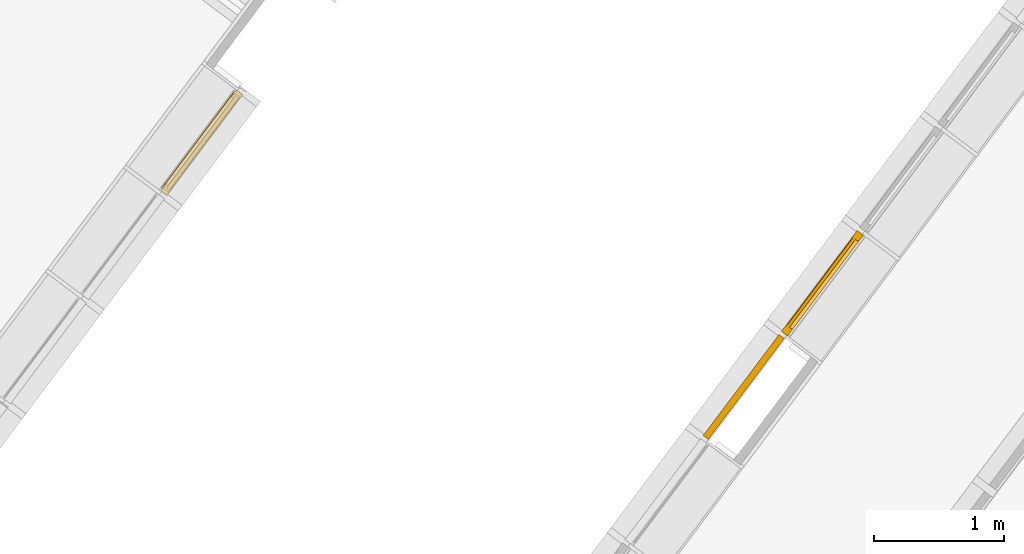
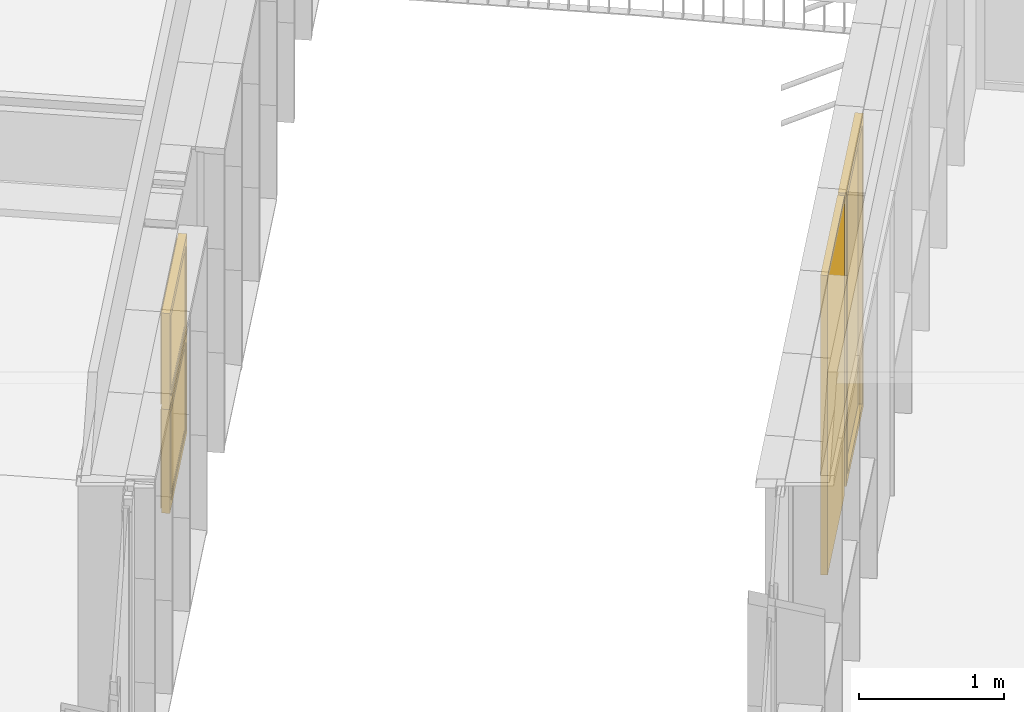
# One storey, part 165 of 243: 4 windows, 2 elements without a shape of their own.
"""IFC2X3 building model written with IfcOpenShell, lengths in metres."""

from ifc_helpers import new_model, entity, si_unit, converted_unit, derived_unit, direction, frame, origin, origin_2d_with_axis, place, context, subcontext, project, spatial, polyline, rectangle, outline, extrude, faceted_brep, source, transform, mapped, material, material_list, type_object, type_shapes, element, aggregate, save


model = new_model("IFC2X3")

# Units and contexts
model_context = context("Model", 3, precision=1e-05, world=origin(), true_north=direction((6.123031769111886e-17, 1.0)))
body_context = subcontext(model_context, "Body", "Model", "MODEL_VIEW")
ifc_project = project(units=[si_unit("LENGTHUNIT", "METRE"), si_unit("AREAUNIT", "SQUARE_METRE"), si_unit("VOLUMEUNIT", "CUBIC_METRE"), converted_unit("PLANEANGLEUNIT", "DEGREE", entity("IfcRatioMeasure", 0.017453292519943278), si_unit("PLANEANGLEUNIT", "RADIAN"), dimensions=[0, 0, 0, 0, 0, 0, 0]), si_unit("MASSUNIT", "GRAM", prefix="KILO"), derived_unit("MASSDENSITYUNIT", [(si_unit("MASSUNIT", "GRAM", prefix="KILO"), 1), (si_unit("LENGTHUNIT", "METRE"), -3)]), derived_unit("IONCONCENTRATIONUNIT", [(si_unit("MASSUNIT", "GRAM", prefix="KILO"), 1), (si_unit("LENGTHUNIT", "METRE"), -3)]), derived_unit("MOMENTOFINERTIAUNIT", [(si_unit("LENGTHUNIT", "METRE"), 4)]), si_unit("TIMEUNIT", "SECOND"), si_unit("FREQUENCYUNIT", "HERTZ"), si_unit("THERMODYNAMICTEMPERATUREUNIT", "DEGREE_CELSIUS"), derived_unit("THERMALTRANSMITTANCEUNIT", [(si_unit("MASSUNIT", "GRAM", prefix="KILO"), 1), (si_unit("THERMODYNAMICTEMPERATUREUNIT", "KELVIN"), -1), (si_unit("TIMEUNIT", "SECOND"), -3)]), derived_unit("THERMALCONDUCTANCEUNIT", [(si_unit("MASSUNIT", "GRAM", prefix="KILO"), 1), (si_unit("THERMODYNAMICTEMPERATUREUNIT", "KELVIN"), -1), (si_unit("TIMEUNIT", "SECOND"), -3), (si_unit("LENGTHUNIT", "METRE"), 1)]), derived_unit("VOLUMETRICFLOWRATEUNIT", [(si_unit("LENGTHUNIT", "METRE"), 3), (si_unit("TIMEUNIT", "SECOND"), -1)]), derived_unit("MASSFLOWRATEUNIT", [(si_unit("MASSUNIT", "GRAM", prefix="KILO"), 1), (si_unit("TIMEUNIT", "SECOND"), -1)]), derived_unit("ROTATIONALFREQUENCYUNIT", [(si_unit("TIMEUNIT", "SECOND"), -1)]), si_unit("ELECTRICCURRENTUNIT", "AMPERE"), si_unit("ELECTRICVOLTAGEUNIT", "VOLT"), si_unit("POWERUNIT", "WATT"), si_unit("FORCEUNIT", "NEWTON", prefix="KILO"), si_unit("ILLUMINANCEUNIT", "LUX"), si_unit("LUMINOUSFLUXUNIT", "LUMEN"), si_unit("LUMINOUSINTENSITYUNIT", "CANDELA"), derived_unit("USERDEFINED", [(si_unit("MASSUNIT", "GRAM", prefix="KILO"), -1), (si_unit("LENGTHUNIT", "METRE"), -2), (si_unit("TIMEUNIT", "SECOND"), 3), (si_unit("LUMINOUSFLUXUNIT", "LUMEN"), 1)]), derived_unit("USERDEFINED", [(si_unit("MASSUNIT", "GRAM", prefix="KILO"), 1), (si_unit("TIMEUNIT", "SECOND"), -3), (si_unit("LENGTHUNIT", "METRE"), 3), (si_unit("ELECTRICCURRENTUNIT", "AMPERE"), -2)]), derived_unit("SOUNDPOWERUNIT", [(si_unit("MASSUNIT", "GRAM", prefix="KILO"), 1), (si_unit("TIMEUNIT", "SECOND"), -3), (si_unit("LENGTHUNIT", "METRE"), 2)]), derived_unit("SOUNDPRESSUREUNIT", [(si_unit("MASSUNIT", "GRAM", prefix="KILO"), 1), (si_unit("LENGTHUNIT", "METRE"), -1), (si_unit("TIMEUNIT", "SECOND"), -2)]), derived_unit("LINEARVELOCITYUNIT", [(si_unit("LENGTHUNIT", "METRE"), 1), (si_unit("TIMEUNIT", "SECOND"), -1)]), si_unit("PRESSUREUNIT", "PASCAL"), derived_unit("USERDEFINED", [(si_unit("MASSUNIT", "GRAM", prefix="KILO"), 1), (si_unit("LENGTHUNIT", "METRE"), -2), (si_unit("TIMEUNIT", "SECOND"), -2)]), derived_unit("LINEARFORCEUNIT", [(si_unit("MASSUNIT", "GRAM", prefix="KILO"), 1), (si_unit("TIMEUNIT", "SECOND"), -2)]), derived_unit("PLANARFORCEUNIT", [(si_unit("MASSUNIT", "GRAM", prefix="KILO"), 1), (si_unit("LENGTHUNIT", "METRE"), -1), (si_unit("TIMEUNIT", "SECOND"), -2)]), derived_unit("SPECIFICHEATCAPACITYUNIT", [(si_unit("THERMODYNAMICTEMPERATUREUNIT", "KELVIN"), -1), (si_unit("LENGTHUNIT", "METRE"), 2), (si_unit("TIMEUNIT", "SECOND"), -2)]), derived_unit("HEATINGVALUEUNIT", [(si_unit("LENGTHUNIT", "METRE"), 2), (si_unit("TIMEUNIT", "SECOND"), -2)]), derived_unit("VAPORPERMEABILITYUNIT", [(si_unit("LENGTHUNIT", "METRE"), -1), (si_unit("TIMEUNIT", "SECOND"), 1)]), derived_unit("DYNAMICVISCOSITYUNIT", [(si_unit("MASSUNIT", "GRAM", prefix="KILO"), 1), (si_unit("TIMEUNIT", "SECOND"), -1), (si_unit("LENGTHUNIT", "METRE"), -1)]), derived_unit("THERMALEXPANSIONCOEFFICIENTUNIT", [(si_unit("THERMODYNAMICTEMPERATUREUNIT", "KELVIN"), -1)]), derived_unit("MODULUSOFELASTICITYUNIT", [(si_unit("MASSUNIT", "GRAM", prefix="KILO"), 1), (si_unit("LENGTHUNIT", "METRE"), -1), (si_unit("TIMEUNIT", "SECOND"), -2)]), derived_unit("ISOTHERMALMOISTURECAPACITYUNIT", [(si_unit("LENGTHUNIT", "METRE"), 3), (si_unit("MASSUNIT", "GRAM", prefix="KILO"), -1)]), derived_unit("MOISTUREDIFFUSIVITYUNIT", [(si_unit("TIMEUNIT", "SECOND"), -1), (si_unit("LENGTHUNIT", "METRE"), 2)])], contexts=[model_context])

# Site, building, storey
site_placement = place(None, frame((0.0, 0.0, 235.0), z_axis=(0.0, 0.0, 1.0), x_axis=(-0.7996477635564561, 0.6004693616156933, 0.0)))
site = spatial("IfcSite", under=ifc_project, at=site_placement, Name="Default", CompositionType="ELEMENT")
building_placement = place(site_placement, origin())
building = spatial("IfcBuilding", under=site, at=building_placement, CompositionType="ELEMENT")
storey_placement = place(building_placement, origin())
storey = spatial("IfcBuildingStorey", under=building, at=storey_placement, Name="P0- Escola", CompositionType="ELEMENT", Elevation=0.0)

# Curtain wall, windows
curtain_wall_type_1 = type_object("IfcCurtainWallType", Name="Muro cortina:MC- EXT- MC2", PredefinedType="NOTDEFINED")
curtain_wall_1_placement = place(storey_placement, origin())
curtain_wall_1 = element("IfcCurtainWall", 1, at=curtain_wall_1_placement, inside=storey, type_object=curtain_wall_type_1, Name="Muro cortina:MC- EXT- MC2", ObjectType="Muro cortina:MC- EXT- MC2")
ifc_material_1 = material(Name="_Vidre")
ifc_material_2 = material(Name="_Alumini- T1- Perfil")
ifc_material_list_1 = material_list([ifc_material_1, ifc_material_2])
window_style_1 = type_object("IfcWindowStyle", Name="MC- Alu- Conjunt finestra basculant- 68x68 cm:MC- Alu- Conjunt finestra basculant- 68x68 cm", ConstructionType="NOTDEFINED", OperationType="NOTDEFINED", ParameterTakesPrecedence=False, Sizeable=False, material=ifc_material_list_1)
shared_shape_1 = source(origin(), body_context, "Body", "Brep", [
    faceted_brep([(0.43291170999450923, -0.03559830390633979, 0.051999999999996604), (-0.43291170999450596, -0.03559830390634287, 0.051999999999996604), (-0.43291170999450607, -0.011598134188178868, 0.051999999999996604), (0.43291170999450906, -0.011598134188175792, 0.051999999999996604), (0.43291170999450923, -0.035598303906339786, 0.8228027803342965), (0.43291170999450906, -0.011598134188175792, 0.8228027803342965), (-0.43291170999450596, -0.011598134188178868, 0.8228027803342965), (-0.43291170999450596, -0.03559830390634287, 0.8228027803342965)], [[[0, 1, 2, 3]], [[4, 0, 3, 5]], [[5, 3, 2, 6]], [[6, 2, 1, 7]], [[7, 1, 0, 4]], [[4, 5, 6, 7]]]),
    faceted_brep([(-0.4172108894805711, -0.009998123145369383, 0.8071019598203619), (-0.4172108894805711, -0.00999812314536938, 0.06789804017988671), (-0.4172108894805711, -0.007998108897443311, 0.06789804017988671), (-0.4172108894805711, -0.007998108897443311, 0.8071019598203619), (-0.44610892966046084, -0.007998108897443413, 0.8360000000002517), (0.44610892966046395, -0.007998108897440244, 0.8360000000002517), (0.44610892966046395, -0.007998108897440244, 0.03899999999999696), (-0.44610892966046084, -0.007998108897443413, 0.03899999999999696), (0.4172108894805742, -0.007998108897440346, 0.8071019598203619), (0.4172108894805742, -0.007998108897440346, 0.06789804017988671), (0.4172108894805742, -0.009998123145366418, 0.06789804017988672), (0.4172108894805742, -0.009998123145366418, 0.8071019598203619), (0.4329117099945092, -0.00999812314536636, 0.8228027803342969), (-0.43291170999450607, -0.009998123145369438, 0.8228027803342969), (-0.43291170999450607, -0.009998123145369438, 0.05219721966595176), (0.4329117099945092, -0.00999812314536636, 0.052197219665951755), (-0.4329117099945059, -0.04079986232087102, 0.8228027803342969), (-0.4329117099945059, -0.04079986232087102, 0.052197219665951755), (0.4329117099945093, -0.04079986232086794, 0.05219721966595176), (0.4329117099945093, -0.04079986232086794, 0.8228027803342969), (0.41721088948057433, -0.040799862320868, 0.8071019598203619), (-0.41721088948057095, -0.04079986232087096, 0.8071019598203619), (-0.41721088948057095, -0.04079986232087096, 0.06789804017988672), (0.41721088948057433, -0.040799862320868, 0.06789804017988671), (-0.4172108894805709, -0.06800005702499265, 0.8071019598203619), (-0.4172108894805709, -0.06800005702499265, 0.06789804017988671), (0.4172108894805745, -0.0680000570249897, 0.06789804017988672), (0.4172108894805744, -0.0680000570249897, 0.8071019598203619), (0.4636128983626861, -0.06800005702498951, 0.8535039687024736), (-0.4636128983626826, -0.06800005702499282, 0.8535039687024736), (-0.4636128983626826, -0.06800005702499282, 0.021496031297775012), (0.4636128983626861, -0.06800005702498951, 0.021496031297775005), (-0.4636128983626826, -0.0645000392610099, 0.8535039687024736), (-0.4636128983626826, -0.06450003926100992, 0.021496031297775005), (0.4636128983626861, -0.06450003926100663, 0.021496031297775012), (0.4636128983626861, -0.06450003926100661, 0.8535039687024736), (0.44610892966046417, -0.06450003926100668, 0.8360000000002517), (-0.4461089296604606, -0.06450003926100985, 0.8360000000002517), (-0.4461089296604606, -0.06450003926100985, 0.03899999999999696), (0.44610892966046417, -0.06450003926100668, 0.038999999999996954)], [[[0, 1, 2, 3]], [[4, 5, 6, 7], [8, 3, 2, 9]], [[1, 10, 9, 2]], [[0, 11, 10, 1], [12, 13, 14, 15]], [[16, 17, 14, 13]], [[17, 18, 15, 14]], [[16, 19, 18, 17], [20, 21, 22, 23]], [[24, 25, 22, 21]], [[25, 26, 23, 22]], [[24, 27, 26, 25], [28, 29, 30, 31]], [[32, 33, 30, 29]], [[33, 34, 31, 30]], [[32, 35, 34, 33], [36, 37, 38, 39]], [[4, 7, 38, 37]], [[7, 6, 39, 38]], [[10, 11, 8, 9]], [[18, 19, 12, 15]], [[26, 27, 20, 23]], [[34, 35, 28, 31]], [[6, 5, 36, 39]], [[11, 0, 3, 8]], [[19, 16, 13, 12]], [[27, 24, 21, 20]], [[35, 32, 29, 28]], [[5, 4, 37, 36]]], outer=[[True], [True, False], [True], [False, True], [True], [True], [True, False], [True], [True], [False, True], [True], [True], [True, False], [True], [True], [True], [True], [True], [True], [True], [True], [True], [True], [True], [True]]),
    faceted_brep([(0.42219318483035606, 0.0, 0.8121931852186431), (0.42219318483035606, 0.0, 0.06280681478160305), (0.42219318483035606, -0.0040000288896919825, 0.06280681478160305), (0.42219318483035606, -0.0040000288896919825, 0.8121931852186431), (-0.42219318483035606, -0.0040000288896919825, 0.8121931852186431), (-0.42219318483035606, -0.0040000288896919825, 0.06280681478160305), (0.4575998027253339, -0.0040000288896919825, 0.8475998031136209), (-0.4575998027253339, -0.0040000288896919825, 0.8475998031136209), (-0.4575998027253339, -0.0040000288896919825, 0.027400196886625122), (0.4575998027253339, -0.0040000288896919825, 0.02740019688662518), (-0.42219318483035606, 0.0, 0.06280681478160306), (-0.42219318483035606, 0.0, 0.8121931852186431), (-0.48499999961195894, 0.0, 0.875000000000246), (0.48499999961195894, 0.0, 0.875000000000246), (0.48499999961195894, 0.0, 0.0), (-0.48499999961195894, 0.0, 0.0), (0.48499999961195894, -0.05999999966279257, 0.875000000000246), (0.48499999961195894, -0.05999999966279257, 0.0), (-0.48499999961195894, -0.05999999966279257, 0.0), (-0.48499999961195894, -0.05999999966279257, 0.875000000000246), (-0.4575998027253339, -0.05999999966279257, 0.8475998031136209), (0.4575998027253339, -0.05999999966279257, 0.8475998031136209), (0.4575998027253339, -0.05999999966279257, 0.027400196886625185), (-0.4575998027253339, -0.05999999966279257, 0.02740019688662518)], [[[0, 1, 2, 3]], [[4, 3, 2, 5], [6, 7, 8, 9]], [[1, 10, 5, 2]], [[0, 11, 10, 1], [12, 13, 14, 15]], [[16, 17, 14, 13]], [[17, 18, 15, 14]], [[16, 19, 18, 17], [20, 21, 22, 23]], [[6, 9, 22, 21]], [[9, 8, 23, 22]], [[10, 11, 4, 5]], [[18, 19, 12, 15]], [[8, 7, 20, 23]], [[11, 0, 3, 4]], [[19, 16, 13, 12]], [[7, 6, 21, 20]]], outer=[[True], [False, True], [True], [False, True], [True], [True], [True, False], [True], [True], [True], [True], [True], [True], [True], [True]]),
])
type_shapes(window_style_1, [shared_shape_1])
window_1_placement = place(curtain_wall_1_placement, frame((41.04514768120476, -28.915191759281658, 0.8200000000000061), z_axis=(0.0, 0.0, 1.0), x_axis=(0.0, 1.0, 0.0)))
window_1 = element("IfcWindow", 2, at=window_1_placement, type_object=window_style_1, material=ifc_material_list_1, Name="MC- Alu- Conjunt finestra basculant- 68x68 cm:MC- Alu- Conjunt finestra basculant- 68x68 cm", ObjectType="MC- Alu- Conjunt finestra basculant- 68x68 cm:MC- Alu- Conjunt finestra basculant- 68x68 cm", OverallHeight=0.8750000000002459, OverallWidth=0.9699999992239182, context=body_context, shape_type="MappedRepresentation", body=[
    mapped(shared_shape_1, transform((0.0, 0.0, 0.0), scale=1.0)),
])
window_style_2 = type_object("IfcWindowStyle", Name="MC- Alu- Conjunt finestra basculant- 68x68 cm:MC- Alu- Conjunt finestra basculant- 68x68 cm", ConstructionType="NOTDEFINED", OperationType="NOTDEFINED", ParameterTakesPrecedence=False, Sizeable=False, material=ifc_material_list_1)
shared_shape_2 = source(origin(), body_context, "Body", "Brep", [
    faceted_brep([(0.432911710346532, -0.03559830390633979, 0.051999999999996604), (-0.43291171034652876, -0.03559830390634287, 0.051999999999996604), (-0.4329117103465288, -0.011598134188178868, 0.051999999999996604), (0.43291171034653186, -0.011598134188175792, 0.051999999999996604), (0.432911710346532, -0.035598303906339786, 0.7565527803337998), (0.43291171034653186, -0.011598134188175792, 0.7565527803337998), (-0.43291171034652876, -0.011598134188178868, 0.7565527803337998), (-0.43291171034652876, -0.03559830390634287, 0.7565527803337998)], [[[0, 1, 2, 3]], [[4, 0, 3, 5]], [[5, 3, 2, 6]], [[6, 2, 1, 7]], [[7, 1, 0, 4]], [[4, 5, 6, 7]]]),
    faceted_brep([(-0.41721088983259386, -0.009998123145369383, 0.7408519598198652), (-0.41721088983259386, -0.00999812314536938, 0.06789804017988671), (-0.41721088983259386, -0.007998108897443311, 0.06789804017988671), (-0.41721088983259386, -0.007998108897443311, 0.7408519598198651), (-0.4461089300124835, -0.007998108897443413, 0.7697499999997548), (0.44610893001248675, -0.007998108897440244, 0.7697499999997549), (0.4461089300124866, -0.007998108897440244, 0.03899999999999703), (-0.44610893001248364, -0.007998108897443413, 0.03899999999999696), (0.41721088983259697, -0.007998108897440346, 0.7408519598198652), (0.41721088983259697, -0.007998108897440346, 0.06789804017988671), (0.41721088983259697, -0.009998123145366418, 0.06789804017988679), (0.41721088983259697, -0.009998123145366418, 0.7408519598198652), (0.4329117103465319, -0.00999812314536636, 0.7565527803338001), (-0.4329117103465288, -0.009998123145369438, 0.7565527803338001), (-0.4329117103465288, -0.009998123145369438, 0.05219721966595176), (0.4329117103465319, -0.00999812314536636, 0.052197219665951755), (-0.4329117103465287, -0.04079986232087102, 0.7565527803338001), (-0.4329117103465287, -0.04079986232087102, 0.052197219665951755), (0.4329117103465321, -0.04079986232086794, 0.05219721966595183), (0.4329117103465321, -0.04079986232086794, 0.7565527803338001), (0.41721088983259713, -0.040799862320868, 0.7408519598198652), (-0.41721088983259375, -0.04079986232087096, 0.7408519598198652), (-0.41721088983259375, -0.04079986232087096, 0.06789804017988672), (0.41721088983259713, -0.040799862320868, 0.06789804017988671), (-0.4172108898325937, -0.06800005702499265, 0.7408519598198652), (-0.4172108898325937, -0.06800005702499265, 0.06789804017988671), (0.41721088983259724, -0.0680000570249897, 0.06789804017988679), (0.4172108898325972, -0.0680000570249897, 0.7408519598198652), (0.4636128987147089, -0.06800005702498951, 0.7872539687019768), (-0.46361289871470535, -0.06800005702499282, 0.7872539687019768), (-0.46361289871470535, -0.06800005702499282, 0.021496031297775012), (0.4636128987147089, -0.06800005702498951, 0.021496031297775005), (-0.46361289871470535, -0.0645000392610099, 0.7872539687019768), (-0.46361289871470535, -0.06450003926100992, 0.021496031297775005), (0.4636128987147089, -0.06450003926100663, 0.02149603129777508), (0.4636128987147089, -0.06450003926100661, 0.7872539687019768), (0.4461089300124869, -0.06450003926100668, 0.7697499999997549), (-0.4461089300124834, -0.06450003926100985, 0.7697499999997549), (-0.4461089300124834, -0.06450003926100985, 0.03899999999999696), (0.4461089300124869, -0.06450003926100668, 0.038999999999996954)], [[[0, 1, 2, 3]], [[4, 5, 6, 7], [8, 3, 2, 9]], [[1, 10, 9, 2]], [[0, 11, 10, 1], [12, 13, 14, 15]], [[16, 17, 14, 13]], [[17, 18, 15, 14]], [[16, 19, 18, 17], [20, 21, 22, 23]], [[24, 25, 22, 21]], [[25, 26, 23, 22]], [[24, 27, 26, 25], [28, 29, 30, 31]], [[32, 33, 30, 29]], [[33, 34, 31, 30]], [[32, 35, 34, 33], [36, 37, 38, 39]], [[4, 7, 38, 37]], [[7, 6, 39, 38]], [[10, 11, 8, 9]], [[18, 19, 12, 15]], [[26, 27, 20, 23]], [[34, 35, 28, 31]], [[6, 5, 36, 39]], [[11, 0, 3, 8]], [[19, 16, 13, 12]], [[27, 24, 21, 20]], [[35, 32, 29, 28]], [[5, 4, 37, 36]]], outer=[[True], [True, False], [True], [False, True], [True], [True], [True, False], [True], [True], [False, True], [True], [True], [True, False], [True], [True], [True], [True], [True], [True], [True], [True], [True], [True], [True], [True]]),
    faceted_brep([(0.4221931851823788, 0.0, 0.7459431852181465), (0.4221931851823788, 0.0, 0.06280681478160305), (0.4221931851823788, -0.0040000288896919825, 0.06280681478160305), (0.4221931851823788, -0.0040000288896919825, 0.7459431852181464), (-0.4221931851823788, -0.0040000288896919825, 0.7459431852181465), (-0.4221931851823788, -0.0040000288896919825, 0.06280681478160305), (0.4575998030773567, -0.0040000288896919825, 0.7813498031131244), (-0.4575998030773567, -0.0040000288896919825, 0.7813498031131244), (-0.4575998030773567, -0.0040000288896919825, 0.027400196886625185), (0.4575998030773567, -0.0040000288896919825, 0.02740019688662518), (-0.4221931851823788, 0.0, 0.06280681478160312), (-0.4221931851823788, 0.0, 0.7459431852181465), (-0.48499999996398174, 0.0, 0.8087499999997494), (0.48499999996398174, 0.0, 0.8087499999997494), (0.48499999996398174, 0.0, 0.0), (-0.48499999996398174, 0.0, 0.0), (0.48499999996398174, -0.05999999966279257, 0.8087499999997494), (0.48499999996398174, -0.05999999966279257, 0.0), (-0.48499999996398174, -0.05999999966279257, 0.0), (-0.48499999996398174, -0.05999999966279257, 0.8087499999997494), (-0.4575998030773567, -0.05999999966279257, 0.7813498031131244), (0.4575998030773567, -0.05999999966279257, 0.7813498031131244), (0.4575998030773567, -0.05999999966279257, 0.027400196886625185), (-0.4575998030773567, -0.05999999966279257, 0.02740019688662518)], [[[0, 1, 2, 3]], [[4, 3, 2, 5], [6, 7, 8, 9]], [[1, 10, 5, 2]], [[0, 11, 10, 1], [12, 13, 14, 15]], [[16, 17, 14, 13]], [[17, 18, 15, 14]], [[16, 19, 18, 17], [20, 21, 22, 23]], [[6, 9, 22, 21]], [[9, 8, 23, 22]], [[10, 11, 4, 5]], [[18, 19, 12, 15]], [[8, 7, 20, 23]], [[11, 0, 3, 4]], [[19, 16, 13, 12]], [[7, 6, 21, 20]]], outer=[[True], [False, True], [True], [False, True], [True], [True], [True, False], [True], [True], [True], [True], [True], [True], [True], [True]]),
])
type_shapes(window_style_2, [shared_shape_2])
window_2_placement = place(curtain_wall_1_placement, frame((41.04514768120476, -28.915191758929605, 1.6950000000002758), z_axis=(0.0, 0.0, 1.0), x_axis=(0.0, 1.0, 0.0)))
window_2 = element("IfcWindow", 3, at=window_2_placement, type_object=window_style_2, material=ifc_material_list_1, Name="MC- Alu- Conjunt finestra basculant- 68x68 cm:MC- Alu- Conjunt finestra basculant- 68x68 cm", ObjectType="MC- Alu- Conjunt finestra basculant- 68x68 cm:MC- Alu- Conjunt finestra basculant- 68x68 cm", OverallHeight=0.8087499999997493, OverallWidth=0.9699999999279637, context=body_context, shape_type="MappedRepresentation", body=[
    mapped(shared_shape_2, transform((0.0, 0.0, 0.0), scale=1.0)),
])
aggregate(curtain_wall_1, [window_1, window_2])

curtain_wall_type_2 = type_object("IfcCurtainWallType", Name="Muro cortina:MC- EXT- MC5", PredefinedType="NOTDEFINED")
curtain_wall_2_placement = place(storey_placement, origin())
curtain_wall_2 = element("IfcCurtainWall", 4, at=curtain_wall_2_placement, inside=storey, type_object=curtain_wall_type_2, Name="Muro cortina:MC- EXT- MC5", ObjectType="Muro cortina:MC- EXT- MC5")
ifc_material_3 = material(Name="<Unnamed>")
ifc_material_list_2 = material_list([ifc_material_3, ifc_material_1, ifc_material_2])
window_style_3 = type_object("IfcWindowStyle", Name="MC- Alu- Conjunt vidre fix revestiment:MC- Alu- Conjunt vidre fix revestiment", ConstructionType="NOTDEFINED", OperationType="NOTDEFINED", ParameterTakesPrecedence=False, Sizeable=False, material=ifc_material_list_2)
shared_shape_3 = source(origin(), body_context, "Body", "SweptSolid", [
    extrude(rectangle(XDim=0.9599999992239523, YDim=0.039999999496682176, at=origin_2d_with_axis()), frame((0.0, -0.02999999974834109, 0.0050000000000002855), z_axis=(0.0, 0.0, 1.0), x_axis=(-1.0, 0.0, 0.0)), (0.0, 0.0, 1.0), 2.5137499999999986),
    extrude(rectangle(XDim=0.9699999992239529, YDim=0.010000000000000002, at=origin_2d_with_axis()), frame((0.0, -0.005000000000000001, 0.0), z_axis=(0.0, 0.0, 1.0), x_axis=(-1.0, 0.0, 0.0)), (0.0, 0.0, 1.0), 2.5237499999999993),
    extrude(outline(polyline([(-1.2618749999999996, -0.48499999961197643), (1.2618749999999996, -0.48499999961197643), (1.2618749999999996, 0.48499999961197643), (-1.2618749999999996, 0.48499999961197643), (-1.2618749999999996, -0.48499999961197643)]), holes=[polyline([(-1.2568749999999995, 0.47999999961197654), (1.2568749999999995, 0.47999999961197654), (1.2568749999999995, -0.47999999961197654), (-1.2568749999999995, -0.4799999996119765), (-1.2568749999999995, 0.47999999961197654)])]), frame((0.0, -0.010000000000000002, 1.2618749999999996), z_axis=(0.0, -1.0, 0.0), x_axis=(0.0, 0.0, -1.0)), (0.0, 0.0, 1.0), 0.03999999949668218),
])
type_shapes(window_style_3, [shared_shape_3])
window_3_placement = place(curtain_wall_2_placement, frame((36.645147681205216, -29.915191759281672, -0.02), z_axis=(0.0, 0.0, 1.0), x_axis=(0.0, -1.0, 0.0)))
window_3 = element("IfcWindow", 5, at=window_3_placement, type_object=window_style_3, material=ifc_material_list_2, Name="MC- Alu- Conjunt vidre fix revestiment:MC- Alu- Conjunt vidre fix revestiment", ObjectType="MC- Alu- Conjunt vidre fix revestiment:MC- Alu- Conjunt vidre fix revestiment", OverallHeight=2.5237499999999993, OverallWidth=0.969999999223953, context=body_context, shape_type="MappedRepresentation", body=[
    mapped(shared_shape_3, transform((0.0, 0.0, 0.0), scale=1.0)),
])
window_style_4 = type_object("IfcWindowStyle", Name="MC- Alu- Conjunt vidre fix- 62x60 cm:MC- Alu- Conjunt vidre fix- 62x60 cm", ConstructionType="NOTDEFINED", OperationType="NOTDEFINED", ParameterTakesPrecedence=False, Sizeable=False, material=ifc_material_list_1)
shared_shape_4 = source(origin(), body_context, "Body", "Brep", [
    faceted_brep([(0.43619328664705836, -0.007600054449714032, 0.048806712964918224), (0.43619328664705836, -0.03160022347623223, 0.048806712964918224), (-0.4361932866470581, -0.03160022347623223, 0.048806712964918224), (-0.4361932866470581, -0.007600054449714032, 0.048806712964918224), (0.43619328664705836, -0.007600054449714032, 2.422449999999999), (-0.4361932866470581, -0.007600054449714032, 2.422449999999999), (-0.4361932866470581, -0.03160022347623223, 2.422449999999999), (0.43619328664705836, -0.03160022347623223, 2.422449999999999)], [[[0, 1, 2, 3]], [[4, 0, 3, 5]], [[5, 3, 2, 6]], [[6, 2, 1, 7]], [[7, 1, 0, 4]], [[4, 5, 6, 7]]]),
    faceted_brep([(0.48499999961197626, -0.05999999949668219, 2.471449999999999), (0.48499999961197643, -0.05999999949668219, 0.0), (0.48499999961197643, 0.0, 0.0), (0.48499999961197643, 0.0, 2.471449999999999), (-0.48499999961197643, 0.0, 2.471449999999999), (-0.48499999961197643, 0.0, 0.0), (0.4221931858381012, 0.0, 2.408643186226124), (-0.4221931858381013, 0.0, 2.408643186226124), (-0.4221931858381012, 0.0, 0.06280681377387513), (0.4221931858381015, 0.0, 0.06280681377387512), (-0.48499999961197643, -0.05999999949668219, 0.0), (-0.4849999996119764, -0.05999999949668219, 2.471449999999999), (-0.4221960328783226, -0.05999999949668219, 2.4086460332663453), (0.4221960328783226, -0.05999999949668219, 2.4086460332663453), (0.4221960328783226, -0.05999999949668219, 0.06280396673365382), (-0.4221960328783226, -0.05999999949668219, 0.06280396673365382), (0.42219603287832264, -0.03160022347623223, 2.4086460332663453), (0.4221960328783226, -0.03160022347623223, 0.06280396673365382), (-0.4221960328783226, -0.03160022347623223, 0.06280396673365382), (-0.4221960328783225, -0.03160022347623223, 2.4086460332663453), (-0.43619328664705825, -0.03160022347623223, 2.422643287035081), (0.43619328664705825, -0.03160022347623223, 2.422643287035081), (0.43619328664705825, -0.03160022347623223, 0.048806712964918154), (-0.43619328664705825, -0.03160022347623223, 0.04880671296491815), (0.43619328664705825, -0.007600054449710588, 2.422643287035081), (0.4361932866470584, -0.007600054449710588, 0.04880671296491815), (-0.43619328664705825, -0.007600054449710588, 0.048806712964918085), (-0.43619328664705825, -0.007600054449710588, 2.422643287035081), (-0.4221931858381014, -0.007600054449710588, 2.408643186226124), (0.4221931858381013, -0.007600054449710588, 2.408643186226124), (0.4221931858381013, -0.007600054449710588, 0.06280681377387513), (-0.4221931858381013, -0.007600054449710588, 0.06280681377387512)], [[[0, 1, 2, 3]], [[4, 3, 2, 5], [6, 7, 8, 9]], [[1, 10, 5, 2]], [[0, 11, 10, 1], [12, 13, 14, 15]], [[16, 17, 14, 13]], [[17, 18, 15, 14]], [[16, 19, 18, 17], [20, 21, 22, 23]], [[24, 25, 22, 21]], [[25, 26, 23, 22]], [[24, 27, 26, 25], [28, 29, 30, 31]], [[6, 9, 30, 29]], [[9, 8, 31, 30]], [[10, 11, 4, 5]], [[18, 19, 12, 15]], [[26, 27, 20, 23]], [[8, 7, 28, 31]], [[11, 0, 3, 4]], [[19, 16, 13, 12]], [[27, 24, 21, 20]], [[7, 6, 29, 28]]], outer=[[True], [True, False], [True], [True, False], [True], [True], [False, True], [True], [True], [True, False], [True], [True], [True], [True], [True], [True], [True], [True], [True], [True]]),
])
type_shapes(window_style_4, [shared_shape_4])
window_4_placement = place(curtain_wall_2_placement, frame((36.645147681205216, -30.915191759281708, 0.03229999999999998), z_axis=(0.0, 0.0, 1.0), x_axis=(0.0, -1.0, 0.0)))
window_4 = element("IfcWindow", 6, at=window_4_placement, type_object=window_style_4, material=ifc_material_list_1, Name="MC- Alu- Conjunt vidre fix- 62x60 cm:MC- Alu- Conjunt vidre fix- 62x60 cm", ObjectType="MC- Alu- Conjunt vidre fix- 62x60 cm:MC- Alu- Conjunt vidre fix- 62x60 cm", OverallHeight=2.471449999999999, OverallWidth=0.969999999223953, context=body_context, shape_type="MappedRepresentation", body=[
    mapped(shared_shape_4, transform((0.0, 0.0, 0.0), scale=1.0)),
])
aggregate(curtain_wall_2, [window_3, window_4])

save(model, "model.ifc")
